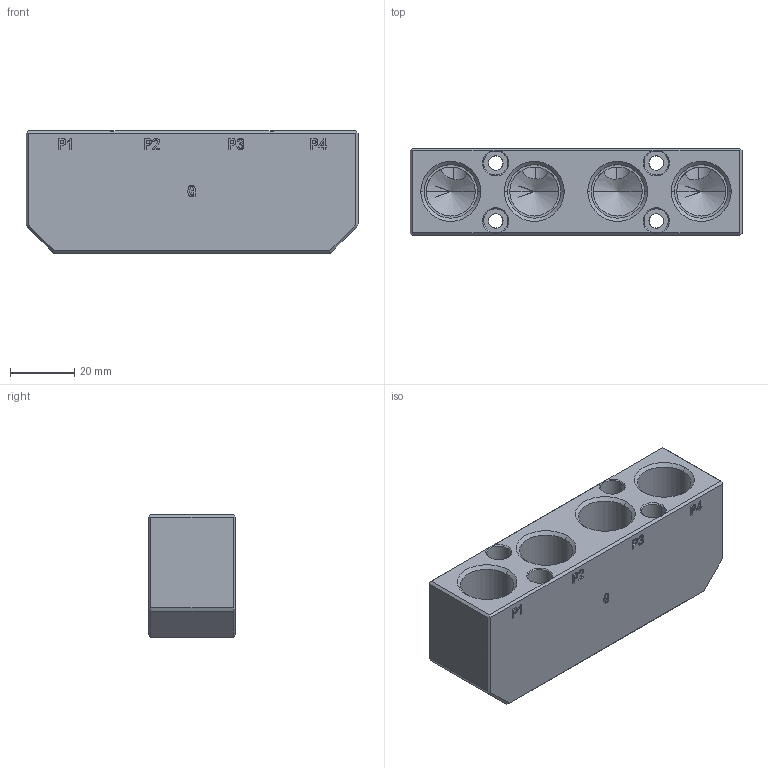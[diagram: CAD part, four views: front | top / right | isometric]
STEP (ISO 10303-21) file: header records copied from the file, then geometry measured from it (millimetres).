
FILE_DESCRIPTION (( 'STEP AP214' ), '1' );
FILE_NAME ('7.Y02043-QCAM-04G38R-机器人侧自动快换气路扩展模块本体.STEP', '2022-08-22T02:30:57', ( '微软用户' ), ( '微软中国' ), 'SwSTEP 2.0', 'SolidWorks 2018', '' );
FILE_SCHEMA (( 'AUTOMOTIVE_DESIGN' ));
Length unit declared in the file: millimetre
Products named in the file (2): 7.Y02043-QCAM-04G38R-机器人侧自动快换气路扩展模块本体
Bounding box: 103.4 x 27 x 38.1 mm (x, y, z)
Volume: 70048.8 mm3; surface area: 23670.5 mm2
Topology: 1 solids, 1 shells, 246 faces, 630 edges, 394 vertices
Faces by surface type: plane 113, cone 56, cylinder 44, bspline 33
Entity records: 10433 total; most frequent: CARTESIAN_POINT 4621, ORIENTED_EDGE 1236, DIRECTION 1094, EDGE_CURVE 618, VECTOR 400, LINE 400, VERTEX_POINT 394, AXIS2_PLACEMENT_3D 347
